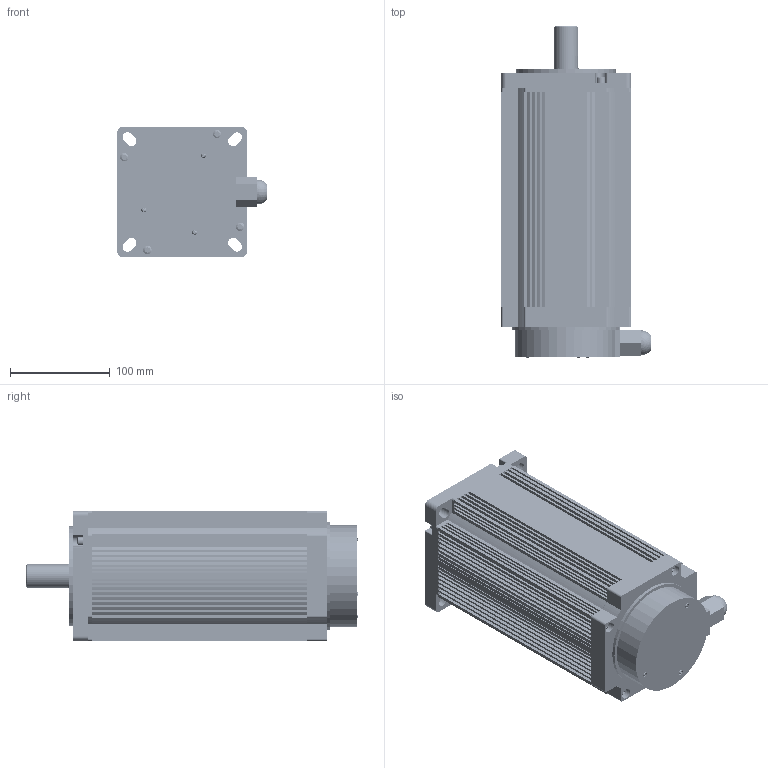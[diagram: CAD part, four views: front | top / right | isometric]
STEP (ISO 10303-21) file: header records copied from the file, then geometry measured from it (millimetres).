
FILE_DESCRIPTION (( 'STEP AP203' ), '1' );
FILE_NAME ('130-285轴24.STEP', '2023-06-19T03:00:22', ( '微软用户' ), ( '微软中国' ), 'SwSTEP 2.0', 'SolidWorks 2022', '' );
FILE_SCHEMA (( 'CONFIG_CONTROL_DESIGN' ));
Length unit declared in the file: millimetre
Products named in the file (10): 蚐猾; 20040324; 130-285粣24; 錨璃1; 20040323; 蹟裝; 11; 40010184; 20031017; 20230033
Assembly tree (24 placements, depth 2):
  130-285粣24
    40010184
    20040324
    20040323
    20031017
    蹟裝  x14
    蚐猾
    20230033
    錨璃1
    11  x3
Bounding box: 149.6 x 332.6 x 130 mm (x, y, z)
Volume: 2405733.4 mm3; surface area: 667807.3 mm2
Topology: 24 solids, 24 shells, 2538 faces, 7227 edges, 4784 vertices
Faces by surface type: cylinder 1729, plane 688, bspline 80, sphere 36, cone 5
Entity records: 91362 total; most frequent: CARTESIAN_POINT 55461, ORIENTED_EDGE 8176, DIRECTION 6371, EDGE_CURVE 4088, VERTEX_POINT 2715, VECTOR 2219, LINE 2219, AXIS2_PLACEMENT_3D 2076
